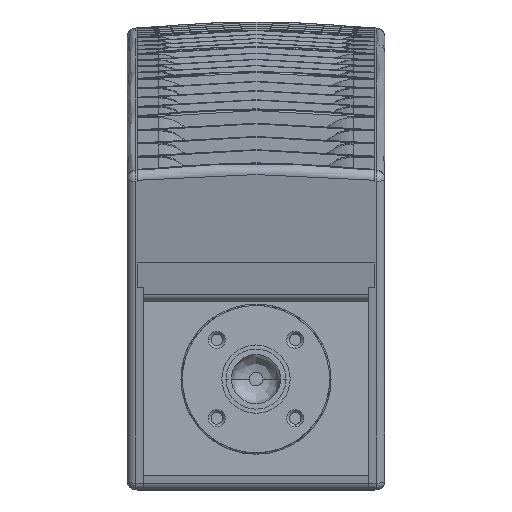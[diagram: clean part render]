
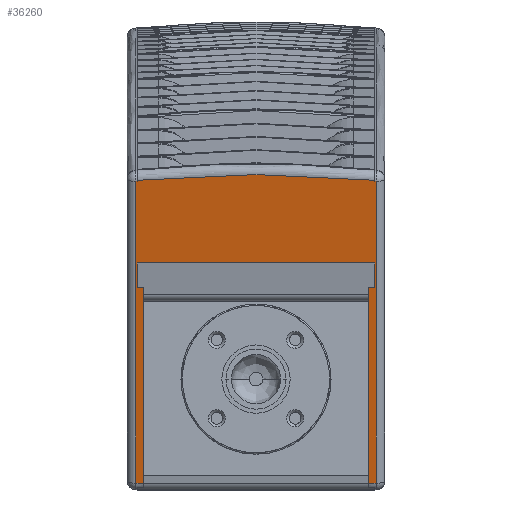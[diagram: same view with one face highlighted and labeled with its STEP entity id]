
A CAD part, front view. The second image highlights one B-rep face of the part: STEP entity #36260.
In plain terms, the highlighted planar face has unit normal (0, -0.974, -0.225) as drawn and (0, 0.225, -0.974) by its records, which use the part's own axes.
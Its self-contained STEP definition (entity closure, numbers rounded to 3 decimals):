
#10824 = CARTESIAN_POINT ( 'NONE',  ( 182.5, 337.955, 52.207 ) ) ;
#15702 = CARTESIAN_POINT ( 'NONE',  ( 6.5, 337.955, 52.207 ) ) ;
#16031 = CARTESIAN_POINT ( 'NONE',  ( 6.5, 116.727, 1.132 ) ) ;
#16032 = DIRECTION ( 'NONE',  ( 0., -0.974, -0.225 ) ) ;
#16033 = VECTOR ( 'NONE', #16032, 1000. ) ;
#16034 = CARTESIAN_POINT ( 'NONE',  ( 6.5, 156.38, 10.287 ) ) ;
#16035 = LINE ( 'NONE', #16034, #16033 ) ;
#16163 = DIRECTION ( 'NONE',  ( 0., -0.974, -0.225 ) ) ;
#16164 = VECTOR ( 'NONE', #16163, 1000. ) ;
#16165 = CARTESIAN_POINT ( 'NONE',  ( 12., 110.49, -0.308 ) ) ;
#16166 = LINE ( 'NONE', #16165, #16164 ) ;
#16337 = CARTESIAN_POINT ( 'NONE',  ( 177., 337.955, 52.207 ) ) ;
#16338 = CARTESIAN_POINT ( 'NONE',  ( 177., 194.674, 19.128 ) ) ;
#16347 = DIRECTION ( 'NONE',  ( 0., -0.974, -0.225 ) ) ;
#16348 = VECTOR ( 'NONE', #16347, 1000. ) ;
#16349 = CARTESIAN_POINT ( 'NONE',  ( 182.5, 110.49, -0.308 ) ) ;
#16350 = LINE ( 'NONE', #16349, #16348 ) ;
#16351 = DIRECTION ( 'NONE',  ( 1., 0., 0. ) ) ;
#16352 = VECTOR ( 'NONE', #16351, 1000. ) ;
#16353 = CARTESIAN_POINT ( 'NONE',  ( 177., 337.955, 52.207 ) ) ;
#16354 = LINE ( 'NONE', #16353, #16352 ) ;
#16379 = DIRECTION ( 'NONE',  ( 0., 0.974, 0.225 ) ) ;
#16380 = DIRECTION ( 'NONE',  ( 0., 0.225, -0.974 ) ) ;
#16381 = CARTESIAN_POINT ( 'NONE',  ( 177., 110.49, -0.308 ) ) ;
#16382 = AXIS2_PLACEMENT_3D ( 'NONE', #16381, #16380, #16379 ) ;
#16383 = PLANE ( 'NONE',  #16382 ) ;
#16384 = FACE_OUTER_BOUND ( 'NONE', #36265, .T. ) ;
#16390 = CARTESIAN_POINT ( 'NONE',  ( 181.5, 115.982, 0.96 ) ) ;
#16395 = DIRECTION ( 'NONE',  ( 0., 0.974, 0.225 ) ) ;
#16396 = VECTOR ( 'NONE', #16395, 1000. ) ;
#16397 = CARTESIAN_POINT ( 'NONE',  ( 181.5, 115.982, 0.96 ) ) ;
#16398 = LINE ( 'NONE', #16397, #16396 ) ;
#16400 = CARTESIAN_POINT ( 'NONE',  ( 181.5, 116.727, 1.132 ) ) ;
#16405 = DIRECTION ( 'NONE',  ( 1., 0., 0. ) ) ;
#16406 = VECTOR ( 'NONE', #16405, 1000. ) ;
#16407 = CARTESIAN_POINT ( 'NONE',  ( 177., 116.727, 1.132 ) ) ;
#16408 = LINE ( 'NONE', #16407, #16406 ) ;
#16409 = CARTESIAN_POINT ( 'NONE',  ( 182.5, 116.727, 1.132 ) ) ;
#16410 = CARTESIAN_POINT ( 'NONE',  ( 181.5, 194.674, 19.13 ) ) ;
#16411 = CARTESIAN_POINT ( 'NONE',  ( 181.5, 188.657, 17.738 ) ) ;
#16412 = CARTESIAN_POINT ( 'NONE',  ( 181.5, 182.64, 16.349 ) ) ;
#16413 = CARTESIAN_POINT ( 'NONE',  ( 181.5, 176.623, 14.96 ) ) ;
#16414 = CARTESIAN_POINT ( 'NONE',  ( 181.5, 194.674, 19.13 ) ) ;
#16415 = B_SPLINE_CURVE_WITH_KNOTS ( 'NONE', 3,
 ( #16413, #16412, #16411, #16410 ),
 .UNSPECIFIED., .F., .F.,
 ( 4, 4 ),
 ( 0., 1. ),
 .UNSPECIFIED. ) ;
#16422 = CARTESIAN_POINT ( 'NONE',  ( 181.5, 176.623, 14.96 ) ) ;
#16427 = CARTESIAN_POINT ( 'NONE',  ( 7.5, 176.623, 14.96 ) ) ;
#16428 = DIRECTION ( 'NONE',  ( 1., 0., 0. ) ) ;
#16429 = VECTOR ( 'NONE', #16428, 1000. ) ;
#16430 = CARTESIAN_POINT ( 'NONE',  ( 177., 176.623, 14.96 ) ) ;
#16431 = LINE ( 'NONE', #16430, #16429 ) ;
#16456 = CARTESIAN_POINT ( 'NONE',  ( 7.5, 176.623, 14.96 ) ) ;
#16457 = CARTESIAN_POINT ( 'NONE',  ( 7.5, 182.64, 16.349 ) ) ;
#16458 = CARTESIAN_POINT ( 'NONE',  ( 7.5, 188.657, 17.738 ) ) ;
#16459 = CARTESIAN_POINT ( 'NONE',  ( 7.5, 194.674, 19.13 ) ) ;
#16461 = B_SPLINE_CURVE_WITH_KNOTS ( 'NONE', 3,
 ( #16459, #16458, #16457, #16456 ),
 .UNSPECIFIED., .F., .F.,
 ( 4, 4 ),
 ( 0., 1. ),
 .UNSPECIFIED. ) ;
#16463 = DIRECTION ( 'NONE',  ( -1., 0., 0. ) ) ;
#16464 = VECTOR ( 'NONE', #16463, 1000. ) ;
#16465 = CARTESIAN_POINT ( 'NONE',  ( 177., 194.674, 19.128 ) ) ;
#16466 = LINE ( 'NONE', #16465, #16464 ) ;
#16473 = CARTESIAN_POINT ( 'NONE',  ( 12., 337.955, 52.207 ) ) ;
#16474 = DIRECTION ( 'NONE',  ( 1., 0., 0. ) ) ;
#16475 = VECTOR ( 'NONE', #16474, 1000. ) ;
#16476 = CARTESIAN_POINT ( 'NONE',  ( 177., 337.955, 52.207 ) ) ;
#16477 = LINE ( 'NONE', #16476, #16475 ) ;
#16479 = DIRECTION ( 'NONE',  ( 1., 0., 0. ) ) ;
#16480 = VECTOR ( 'NONE', #16479, 1000. ) ;
#16481 = CARTESIAN_POINT ( 'NONE',  ( 12., 116.727, 1.132 ) ) ;
#16482 = LINE ( 'NONE', #16481, #16480 ) ;
#16483 = CARTESIAN_POINT ( 'NONE',  ( 7.5, 116.727, 1.132 ) ) ;
#16484 = DIRECTION ( 'NONE',  ( 0., -0.974, -0.225 ) ) ;
#16485 = VECTOR ( 'NONE', #16484, 1000. ) ;
#16486 = CARTESIAN_POINT ( 'NONE',  ( 7.5, 116.727, 1.132 ) ) ;
#16487 = LINE ( 'NONE', #16486, #16485 ) ;
#16488 = CARTESIAN_POINT ( 'NONE',  ( 7.5, 115.982, 0.96 ) ) ;
#16489 = CARTESIAN_POINT ( 'NONE',  ( 36.431, 113.21, 0.32 ) ) ;
#16490 = CARTESIAN_POINT ( 'NONE',  ( 65.431, 111.824, 0. ) ) ;
#16491 = CARTESIAN_POINT ( 'NONE',  ( 123.569, 111.824, 0. ) ) ;
#16492 = CARTESIAN_POINT ( 'NONE',  ( 152.57, 113.21, 0.32 ) ) ;
#16493 = CARTESIAN_POINT ( 'NONE',  ( 181.5, 115.982, 0.96 ) ) ;
#16494 = CARTESIAN_POINT ( 'NONE',  ( 7.5, 115.982, 0.96 ) ) ;
#16495 = B_SPLINE_CURVE_WITH_KNOTS ( 'NONE', 3,
 ( #16493, #16492, #16491, #16490, #16489, #16488 ),
 .UNSPECIFIED., .F., .F.,
 ( 4, 2, 4 ),
 ( 0., 0.5, 1. ),
 .UNSPECIFIED. ) ;
#16526 = DIRECTION ( 'NONE',  ( 0., 0.974, 0.225 ) ) ;
#16527 = VECTOR ( 'NONE', #16526, 1000. ) ;
#16528 = CARTESIAN_POINT ( 'NONE',  ( 177., 110.49, -0.308 ) ) ;
#16529 = LINE ( 'NONE', #16528, #16527 ) ;
#16531 = CARTESIAN_POINT ( 'NONE',  ( 12., 194.674, 19.128 ) ) ;
#16549 = CARTESIAN_POINT ( 'NONE',  ( 7.5, 194.674, 19.13 ) ) ;
#16550 = DIRECTION ( 'NONE',  ( -1., 0., 0. ) ) ;
#16551 = VECTOR ( 'NONE', #16550, 1000. ) ;
#16552 = CARTESIAN_POINT ( 'NONE',  ( 177., 194.674, 19.128 ) ) ;
#16553 = LINE ( 'NONE', #16552, #16551 ) ;
#32957 = VERTEX_POINT ( 'NONE', #10824 ) ;
#35647 = VERTEX_POINT ( 'NONE', #15702 ) ;
#35716 = EDGE_CURVE ( 'NONE', #35647, #35719, #16035, .T. ) ;
#35719 = VERTEX_POINT ( 'NONE', #16031 ) ;
#35952 = EDGE_CURVE ( 'NONE', #36371, #36467, #16166, .T. ) ;
#36148 = VERTEX_POINT ( 'NONE', #16338 ) ;
#36150 = VERTEX_POINT ( 'NONE', #16337 ) ;
#36217 = ORIENTED_EDGE ( 'NONE', *, *, #36221, .T. ) ;
#36221 = EDGE_CURVE ( 'NONE', #36150, #32957, #16354, .T. ) ;
#36224 = ORIENTED_EDGE ( 'NONE', *, *, #36226, .T. ) ;
#36226 = EDGE_CURVE ( 'NONE', #32957, #36228, #16350, .T. ) ;
#36228 = VERTEX_POINT ( 'NONE', #16409 ) ;
#36231 = ORIENTED_EDGE ( 'NONE', *, *, #36234, .F. ) ;
#36234 = EDGE_CURVE ( 'NONE', #36236, #36228, #16408, .T. ) ;
#36236 = VERTEX_POINT ( 'NONE', #16400 ) ;
#36239 = ORIENTED_EDGE ( 'NONE', *, *, #36243, .F. ) ;
#36243 = EDGE_CURVE ( 'NONE', #36247, #36236, #16398, .T. ) ;
#36247 = VERTEX_POINT ( 'NONE', #16390 ) ;
#36260 = ADVANCED_FACE ( 'NONE', ( #16384 ), #16383, .T. ) ;
#36265 = EDGE_LOOP ( 'NONE', ( #36271, #36287, #36297, #36383, #36217, #36224, #36231, #36239, #36334, #36344, #36355, #36360, #36364, #36378, #36470, #36479 ) ) ;
#36271 = ORIENTED_EDGE ( 'NONE', *, *, #36273, .T. ) ;
#36273 = EDGE_CURVE ( 'NONE', #36277, #36282, #16431, .T. ) ;
#36277 = VERTEX_POINT ( 'NONE', #16427 ) ;
#36282 = VERTEX_POINT ( 'NONE', #16422 ) ;
#36287 = ORIENTED_EDGE ( 'NONE', *, *, #36291, .T. ) ;
#36291 = EDGE_CURVE ( 'NONE', #36282, #36294, #16415, .T. ) ;
#36294 = VERTEX_POINT ( 'NONE', #16414 ) ;
#36297 = ORIENTED_EDGE ( 'NONE', *, *, #36300, .T. ) ;
#36300 = EDGE_CURVE ( 'NONE', #36294, #36148, #16466, .T. ) ;
#36301 = EDGE_CURVE ( 'NONE', #36476, #36277, #16461, .T. ) ;
#36334 = ORIENTED_EDGE ( 'NONE', *, *, #36336, .T. ) ;
#36336 = EDGE_CURVE ( 'NONE', #36247, #36340, #16495, .T. ) ;
#36340 = VERTEX_POINT ( 'NONE', #16494 ) ;
#36344 = ORIENTED_EDGE ( 'NONE', *, *, #36346, .F. ) ;
#36346 = EDGE_CURVE ( 'NONE', #36351, #36340, #16487, .T. ) ;
#36351 = VERTEX_POINT ( 'NONE', #16483 ) ;
#36355 = ORIENTED_EDGE ( 'NONE', *, *, #36357, .F. ) ;
#36357 = EDGE_CURVE ( 'NONE', #35719, #36351, #16482, .T. ) ;
#36360 = ORIENTED_EDGE ( 'NONE', *, *, #35716, .F. ) ;
#36364 = ORIENTED_EDGE ( 'NONE', *, *, #36368, .T. ) ;
#36368 = EDGE_CURVE ( 'NONE', #35647, #36371, #16477, .T. ) ;
#36371 = VERTEX_POINT ( 'NONE', #16473 ) ;
#36378 = ORIENTED_EDGE ( 'NONE', *, *, #35952, .T. ) ;
#36383 = ORIENTED_EDGE ( 'NONE', *, *, #36387, .T. ) ;
#36387 = EDGE_CURVE ( 'NONE', #36148, #36150, #16529, .T. ) ;
#36467 = VERTEX_POINT ( 'NONE', #16531 ) ;
#36470 = ORIENTED_EDGE ( 'NONE', *, *, #36473, .T. ) ;
#36473 = EDGE_CURVE ( 'NONE', #36467, #36476, #16553, .T. ) ;
#36476 = VERTEX_POINT ( 'NONE', #16549 ) ;
#36479 = ORIENTED_EDGE ( 'NONE', *, *, #36301, .T. ) ;
